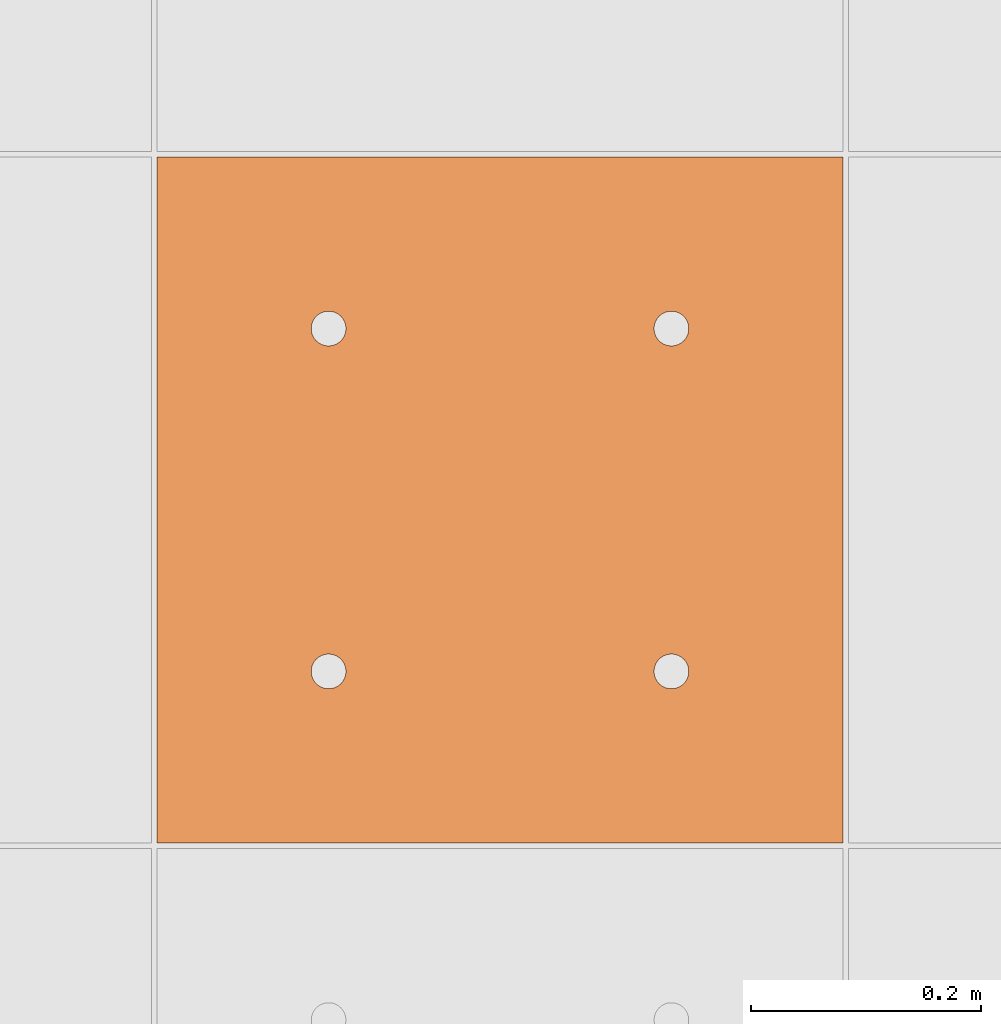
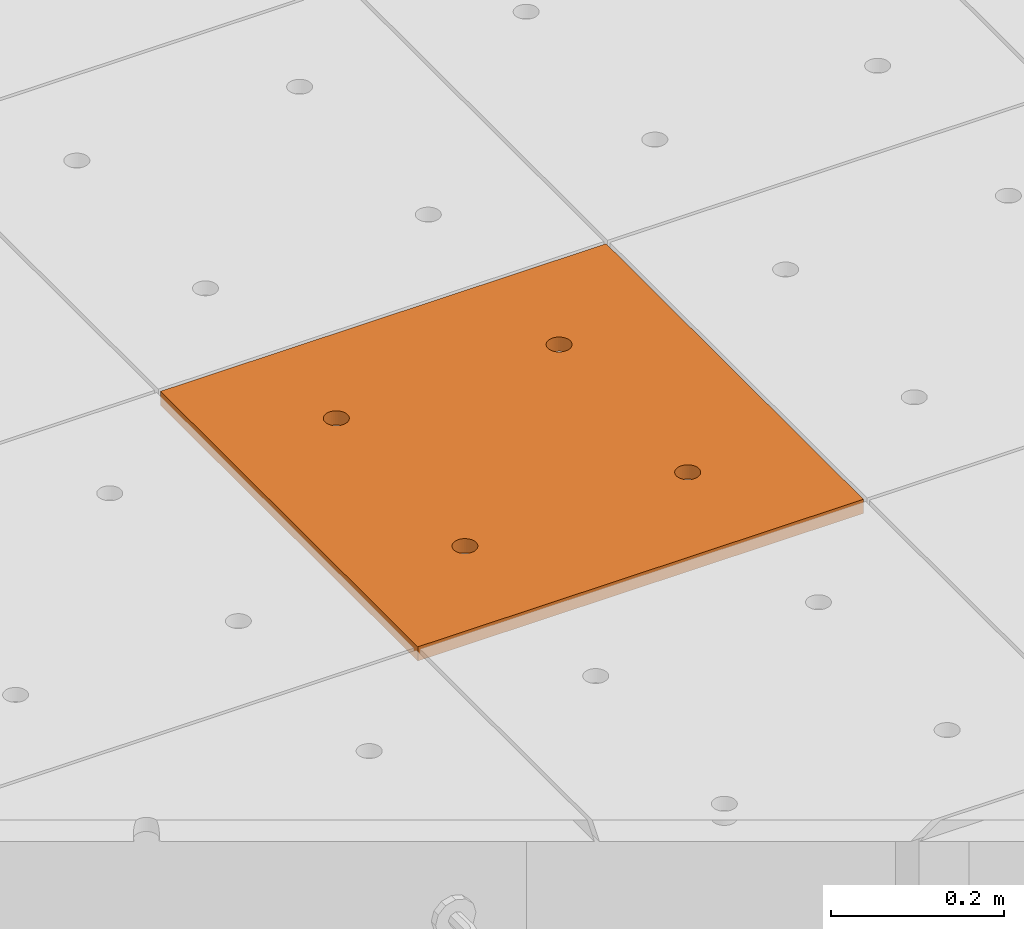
# One storey, part 261 of 338: 1 proxy, 1 element without a shape of its own.
"""IFC2X3 building model written with IfcOpenShell, lengths in millimetres."""

from ifc_helpers import new_model, entity, si_unit, converted_unit, derived_unit, money_unit, direction, frame, origin_with_axes, place, context, subcontext, project, spatial, faceted_brep, source, transform, mapped, material, type_object, type_shapes, element, aggregate, save


model = new_model("IFC2X3")

# Units and contexts
model_context = context("Model", 3, precision=0.01, world=origin_with_axes(), true_north=direction((0.0, 1.0)))
plan_context = context("Plan", 3, precision=0.01, world=origin_with_axes(), true_north=direction((0.0, 1.0)))
body_context = subcontext(model_context, "Body", "Model", "MODEL_VIEW")
ifc_project = project(units=[si_unit("LENGTHUNIT", "METRE", prefix="MILLI"), si_unit("AREAUNIT", "SQUARE_METRE"), si_unit("VOLUMEUNIT", "CUBIC_METRE"), converted_unit("PLANEANGLEUNIT", "DEGREE", entity("IfcPlaneAngleMeasure", 0.0174532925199), si_unit("PLANEANGLEUNIT", "RADIAN"), dimensions=[0, 0, 0, 0, 0, 0, 0]), money_unit("EUR"), converted_unit("TIMEUNIT", "Year", entity("IfcTimeMeasure", 31556926.0), si_unit("TIMEUNIT", "SECOND"), dimensions=[0, 0, 1, 0, 0, 0, 0]), si_unit("MASSUNIT", "GRAM", prefix="KILO"), si_unit("THERMODYNAMICTEMPERATUREUNIT", "DEGREE_CELSIUS"), si_unit("LUMINOUSINTENSITYUNIT", "LUMEN"), si_unit("ENERGYUNIT", "JOULE", prefix="MEGA"), derived_unit("THERMALCONDUCTANCEUNIT", [(si_unit("POWERUNIT", "WATT"), 1), (si_unit("LENGTHUNIT", "METRE"), -1), (si_unit("THERMODYNAMICTEMPERATUREUNIT", "KELVIN"), -1)]), derived_unit("SPECIFICHEATCAPACITYUNIT", [(si_unit("ENERGYUNIT", "JOULE"), 1), (si_unit("MASSUNIT", "GRAM", prefix="KILO"), -1), (si_unit("THERMODYNAMICTEMPERATUREUNIT", "KELVIN"), -1)]), derived_unit("MASSDENSITYUNIT", [(si_unit("MASSUNIT", "GRAM", prefix="KILO"), 1), (si_unit("VOLUMEUNIT", "CUBIC_METRE"), -1)])], contexts=[model_context, plan_context])

# Site, building, storey
site_placement = place(None, origin_with_axes())
site = spatial("IfcSite", under=ifc_project, at=site_placement, Name="Fortuinstraat Woensdrecht", CompositionType="ELEMENT")
building_placement = place(site_placement, origin_with_axes())
building = spatial("IfcBuilding", under=site, at=building_placement, Name="IKC Fortuna", CompositionType="ELEMENT")
storey_placement = place(building_placement, origin_with_axes())
storey = spatial("IfcBuildingStorey", under=building, at=storey_placement, Name="00 begane grond", CompositionType="ELEMENT", Elevation=0.0)

# Covering, proxy
covering_type = type_object("IfcCoveringType", Name="Curtain Wall Type", PredefinedType="CEILING")
covering_placement = place(storey_placement, frame((31656.9226967, 15748.5304598, 3210.0), z_axis=(0.0, 0.0, 1.0), x_axis=(1.0, 0.0, 0.0)))
covering = element("IfcCovering", 1, at=covering_placement, inside=storey, type_object=covering_type, Name="45_Plafondafwerking_P01", PredefinedType="CEILING")
ifc_material = material(Name="Gipsplaat")
building_element_proxy_type = type_object("IfcBuildingElementProxyType", Name="Main Panel 600 x 600 x 20", PredefinedType="NOTDEFINED")
shared_shape = source(origin_with_axes(), body_context, "Body", "Brep", [
    faceted_brep([(2.49999999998, 2.49999999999, -10.0), (300.0, 2.49999999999, -10.0), (300.0, 2.49999999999, 10.0), (2.49999999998, 2.49999999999, 10.0), (2.49999999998, 300.0, -10.0), (2.49999999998, 597.5, -10.0), (300.0, 597.5, -10.0), (597.5, 597.5, -10.0), (597.5, 300.0, -10.0), (597.5, 2.49999999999, -10.0), (166.25, 450.06232995, -10.0), (165.79423259, 452.64711538, -10.0), (164.896546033, 455.11348892, -10.0), (163.58421608, 457.38651108, -10.0), (161.897117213, 459.39711721, -10.0), (159.886511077, 461.08421608, -10.0), (157.613488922, 462.39654603, -10.0), (155.147115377, 463.29423259, -10.0), (152.562329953, 463.75, -10.0), (149.937670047, 463.75, -10.0), (147.352884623, 463.29423259, -10.0), (144.886511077, 462.39654603, -10.0), (142.613488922, 461.08421608, -10.0), (140.602882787, 459.39711721, -10.0), (138.91578392, 457.38651108, -10.0), (137.603453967, 455.11348892, -10.0), (136.705767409, 452.64711538, -10.0), (136.25, 450.06232995, -10.0), (136.25, 448.75, -10.0), (136.25, 447.43767005, -10.0), (136.705767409, 444.85288462, -10.0), (137.603453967, 442.38651108, -10.0), (138.91578392, 440.11348892, -10.0), (140.602882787, 438.10288279, -10.0), (142.613488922, 436.41578392, -10.0), (144.886511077, 435.10345397, -10.0), (147.352884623, 434.20576741, -10.0), (149.937670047, 433.75, -10.0), (152.562329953, 433.75, -10.0), (155.147115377, 434.20576741, -10.0), (157.613488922, 435.10345397, -10.0), (159.886511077, 436.41578392, -10.0), (161.897117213, 438.10288279, -10.0), (163.58421608, 440.11348892, -10.0), (164.896546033, 442.38651108, -10.0), (165.79423259, 444.85288462, -10.0), (166.25, 447.43767005, -10.0), (463.75, 450.06232995, -10.0), (463.29423259, 452.64711538, -10.0), (462.396546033, 455.11348892, -10.0), (461.08421608, 457.38651108, -10.0), (459.397117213, 459.39711721, -10.0), (457.386511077, 461.08421608, -10.0), (455.113488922, 462.39654603, -10.0), (452.647115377, 463.29423259, -10.0), (450.062329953, 463.75, -10.0), (447.437670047, 463.75, -10.0), (444.852884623, 463.29423259, -10.0), (442.386511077, 462.39654603, -10.0), (440.113488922, 461.08421608, -10.0), (438.102882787, 459.39711721, -10.0), (436.41578392, 457.38651108, -10.0), (435.103453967, 455.11348892, -10.0), (434.205767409, 452.64711538, -10.0), (433.75, 450.06232995, -10.0), (433.75, 448.75, -10.0), (433.75, 447.43767005, -10.0), (434.205767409, 444.85288462, -10.0), (435.103453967, 442.38651108, -10.0), (436.41578392, 440.11348892, -10.0), (438.102882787, 438.10288279, -10.0), (440.113488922, 436.41578392, -10.0), (442.386511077, 435.10345397, -10.0), (444.852884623, 434.20576741, -10.0), (447.437670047, 433.75, -10.0), (450.062329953, 433.75, -10.0), (452.647115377, 434.20576741, -10.0), (455.113488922, 435.10345397, -10.0), (457.386511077, 436.41578392, -10.0), (459.397117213, 438.10288279, -10.0), (461.08421608, 440.11348892, -10.0), (462.396546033, 442.38651108, -10.0), (463.29423259, 444.85288462, -10.0), (463.75, 447.43767005, -10.0), (463.75, 152.56232995, -10.0), (463.29423259, 155.14711538, -10.0), (462.396546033, 157.61348892, -10.0), (461.08421608, 159.88651108, -10.0), (459.397117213, 161.89711721, -10.0), (457.386511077, 163.58421608, -10.0), (455.113488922, 164.89654603, -10.0), (452.647115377, 165.79423259, -10.0), (450.062329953, 166.25, -10.0), (447.437670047, 166.25, -10.0), (444.852884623, 165.79423259, -10.0), (442.386511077, 164.89654603, -10.0), (440.113488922, 163.58421608, -10.0), (438.102882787, 161.89711721, -10.0), (436.41578392, 159.88651108, -10.0), (435.103453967, 157.61348892, -10.0), (434.205767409, 155.14711538, -10.0), (433.75, 152.56232995, -10.0), (433.75, 151.25, -10.0), (433.75, 149.93767005, -10.0), (434.205767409, 147.35288462, -10.0), (435.103453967, 144.88651108, -10.0), (436.41578392, 142.61348892, -10.0), (438.102882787, 140.60288279, -10.0), (440.113488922, 138.91578392, -10.0), (442.386511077, 137.60345397, -10.0), (444.852884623, 136.70576741, -10.0), (447.437670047, 136.25, -10.0), (450.062329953, 136.25, -10.0), (452.647115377, 136.70576741, -10.0), (455.113488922, 137.60345397, -10.0), (457.386511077, 138.91578392, -10.0), (459.397117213, 140.60288279, -10.0), (461.08421608, 142.61348892, -10.0), (462.396546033, 144.88651108, -10.0), (463.29423259, 147.35288462, -10.0), (463.75, 149.93767005, -10.0), (166.25, 152.56232995, -10.0), (165.79423259, 155.14711538, -10.0), (164.896546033, 157.61348892, -10.0), (163.58421608, 159.88651108, -10.0), (161.897117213, 161.89711721, -10.0), (159.886511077, 163.58421608, -10.0), (157.613488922, 164.89654603, -10.0), (155.147115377, 165.79423259, -10.0), (152.562329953, 166.25, -10.0), (149.937670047, 166.25, -10.0), (147.352884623, 165.79423259, -10.0), (144.886511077, 164.89654603, -10.0), (142.613488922, 163.58421608, -10.0), (140.602882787, 161.89711721, -10.0), (138.91578392, 159.88651108, -10.0), (137.603453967, 157.61348892, -10.0), (136.705767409, 155.14711538, -10.0), (136.25, 152.56232995, -10.0), (136.25, 151.25, -10.0), (136.25, 149.93767005, -10.0), (136.705767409, 147.35288462, -10.0), (137.603453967, 144.88651108, -10.0), (138.91578392, 142.61348892, -10.0), (140.602882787, 140.60288279, -10.0), (142.613488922, 138.91578392, -10.0), (144.886511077, 137.60345397, -10.0), (147.352884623, 136.70576741, -10.0), (149.937670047, 136.25, -10.0), (152.562329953, 136.25, -10.0), (155.147115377, 136.70576741, -10.0), (157.613488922, 137.60345397, -10.0), (159.886511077, 138.91578392, -10.0), (161.897117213, 140.60288279, -10.0), (163.58421608, 142.61348892, -10.0), (164.896546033, 144.88651108, -10.0), (165.79423259, 147.35288462, -10.0), (166.25, 149.93767005, -10.0), (597.5, 2.49999999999, 10.0), (597.5, 300.0, 10.0), (597.5, 597.5, 10.0), (300.0, 597.5, 10.0), (2.49999999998, 597.5, 10.0), (2.49999999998, 300.0, 10.0), (166.25, 450.06232995, 10.0), (166.25, 447.43767005, 10.0), (165.79423259, 444.85288462, 10.0), (164.896546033, 442.38651108, 10.0), (163.58421608, 440.11348892, 10.0), (161.897117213, 438.10288279, 10.0), (159.886511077, 436.41578392, 10.0), (157.613488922, 435.10345397, 10.0), (155.147115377, 434.20576741, 10.0), (152.562329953, 433.75, 10.0), (149.937670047, 433.75, 10.0), (147.352884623, 434.20576741, 10.0), (144.886511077, 435.10345397, 10.0), (142.613488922, 436.41578392, 10.0), (140.602882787, 438.10288279, 10.0), (138.91578392, 440.11348892, 10.0), (137.603453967, 442.38651108, 10.0), (136.705767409, 444.85288462, 10.0), (136.25, 447.43767005, 10.0), (136.25, 448.75, 10.0), (136.25, 450.06232995, 10.0), (136.705767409, 452.64711538, 10.0), (137.603453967, 455.11348892, 10.0), (138.91578392, 457.38651108, 10.0), (140.602882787, 459.39711721, 10.0), (142.613488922, 461.08421608, 10.0), (144.886511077, 462.39654603, 10.0), (147.352884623, 463.29423259, 10.0), (149.937670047, 463.75, 10.0), (152.562329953, 463.75, 10.0), (155.147115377, 463.29423259, 10.0), (157.613488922, 462.39654603, 10.0), (159.886511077, 461.08421608, 10.0), (161.897117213, 459.39711721, 10.0), (163.58421608, 457.38651108, 10.0), (164.896546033, 455.11348892, 10.0), (165.79423259, 452.64711538, 10.0), (463.75, 450.06232995, 10.0), (463.75, 447.43767005, 10.0), (463.29423259, 444.85288462, 10.0), (462.396546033, 442.38651108, 10.0), (461.08421608, 440.11348892, 10.0), (459.397117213, 438.10288279, 10.0), (457.386511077, 436.41578392, 10.0), (455.113488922, 435.10345397, 10.0), (452.647115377, 434.20576741, 10.0), (450.062329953, 433.75, 10.0), (447.437670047, 433.75, 10.0), (444.852884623, 434.20576741, 10.0), (442.386511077, 435.10345397, 10.0), (440.113488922, 436.41578392, 10.0), (438.102882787, 438.10288279, 10.0), (436.41578392, 440.11348892, 10.0), (435.103453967, 442.38651108, 10.0), (434.205767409, 444.85288462, 10.0), (433.75, 447.43767005, 10.0), (433.75, 448.75, 10.0), (433.75, 450.06232995, 10.0), (434.205767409, 452.64711538, 10.0), (435.103453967, 455.11348892, 10.0), (436.41578392, 457.38651108, 10.0), (438.102882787, 459.39711721, 10.0), (440.113488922, 461.08421608, 10.0), (442.386511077, 462.39654603, 10.0), (444.852884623, 463.29423259, 10.0), (447.437670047, 463.75, 10.0), (450.062329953, 463.75, 10.0), (452.647115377, 463.29423259, 10.0), (455.113488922, 462.39654603, 10.0), (457.386511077, 461.08421608, 10.0), (459.397117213, 459.39711721, 10.0), (461.08421608, 457.38651108, 10.0), (462.396546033, 455.11348892, 10.0), (463.29423259, 452.64711538, 10.0), (463.75, 152.56232995, 10.0), (463.75, 149.93767005, 10.0), (463.29423259, 147.35288462, 10.0), (462.396546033, 144.88651108, 10.0), (461.08421608, 142.61348892, 10.0), (459.397117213, 140.60288279, 10.0), (457.386511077, 138.91578392, 10.0), (455.113488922, 137.60345397, 10.0), (452.647115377, 136.70576741, 10.0), (450.062329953, 136.25, 10.0), (447.437670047, 136.25, 10.0), (444.852884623, 136.70576741, 10.0), (442.386511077, 137.60345397, 10.0), (440.113488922, 138.91578392, 10.0), (438.102882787, 140.60288279, 10.0), (436.41578392, 142.61348892, 10.0), (435.103453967, 144.88651108, 10.0), (434.205767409, 147.35288462, 10.0), (433.75, 149.93767005, 10.0), (433.75, 151.25, 10.0), (433.75, 152.56232995, 10.0), (434.205767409, 155.14711538, 10.0), (435.103453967, 157.61348892, 10.0), (436.41578392, 159.88651108, 10.0), (438.102882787, 161.89711721, 10.0), (440.113488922, 163.58421608, 10.0), (442.386511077, 164.89654603, 10.0), (444.852884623, 165.79423259, 10.0), (447.437670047, 166.25, 10.0), (450.062329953, 166.25, 10.0), (452.647115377, 165.79423259, 10.0), (455.113488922, 164.89654603, 10.0), (457.386511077, 163.58421608, 10.0), (459.397117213, 161.89711721, 10.0), (461.08421608, 159.88651108, 10.0), (462.396546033, 157.61348892, 10.0), (463.29423259, 155.14711538, 10.0), (166.25, 152.56232995, 10.0), (166.25, 149.93767005, 10.0), (165.79423259, 147.35288462, 10.0), (164.896546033, 144.88651108, 10.0), (163.58421608, 142.61348892, 10.0), (161.897117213, 140.60288279, 10.0), (159.886511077, 138.91578392, 10.0), (157.613488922, 137.60345397, 10.0), (155.147115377, 136.70576741, 10.0), (152.562329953, 136.25, 10.0), (149.937670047, 136.25, 10.0), (147.352884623, 136.70576741, 10.0), (144.886511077, 137.60345397, 10.0), (142.613488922, 138.91578392, 10.0), (140.602882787, 140.60288279, 10.0), (138.91578392, 142.61348892, 10.0), (137.603453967, 144.88651108, 10.0), (136.705767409, 147.35288462, 10.0), (136.25, 149.93767005, 10.0), (136.25, 151.25, 10.0), (136.25, 152.56232995, 10.0), (136.705767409, 155.14711538, 10.0), (137.603453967, 157.61348892, 10.0), (138.91578392, 159.88651108, 10.0), (140.602882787, 161.89711721, 10.0), (142.613488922, 163.58421608, 10.0), (144.886511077, 164.89654603, 10.0), (147.352884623, 165.79423259, 10.0), (149.937670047, 166.25, 10.0), (152.562329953, 166.25, 10.0), (155.147115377, 165.79423259, 10.0), (157.613488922, 164.89654603, 10.0), (159.886511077, 163.58421608, 10.0), (161.897117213, 161.89711721, 10.0), (163.58421608, 159.88651108, 10.0), (164.896546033, 157.61348892, 10.0), (165.79423259, 155.14711538, 10.0)], [[[0, 1, 2, 3]], [[0, 4, 5, 6, 7, 8, 9, 1], [10, 11, 12, 13, 14, 15, 16, 17, 18, 19, 20, 21, 22, 23, 24, 25, 26, 27, 28, 29, 30, 31, 32, 33, 34, 35, 36, 37, 38, 39, 40, 41, 42, 43, 44, 45, 46], [47, 48, 49, 50, 51, 52, 53, 54, 55, 56, 57, 58, 59, 60, 61, 62, 63, 64, 65, 66, 67, 68, 69, 70, 71, 72, 73, 74, 75, 76, 77, 78, 79, 80, 81, 82, 83], [84, 85, 86, 87, 88, 89, 90, 91, 92, 93, 94, 95, 96, 97, 98, 99, 100, 101, 102, 103, 104, 105, 106, 107, 108, 109, 110, 111, 112, 113, 114, 115, 116, 117, 118, 119, 120], [121, 122, 123, 124, 125, 126, 127, 128, 129, 130, 131, 132, 133, 134, 135, 136, 137, 138, 139, 140, 141, 142, 143, 144, 145, 146, 147, 148, 149, 150, 151, 152, 153, 154, 155, 156, 157]], [[1, 9, 158, 2]], [[3, 2, 158, 159, 160, 161, 162, 163], [164, 165, 166, 167, 168, 169, 170, 171, 172, 173, 174, 175, 176, 177, 178, 179, 180, 181, 182, 183, 184, 185, 186, 187, 188, 189, 190, 191, 192, 193, 194, 195, 196, 197, 198, 199, 200], [201, 202, 203, 204, 205, 206, 207, 208, 209, 210, 211, 212, 213, 214, 215, 216, 217, 218, 219, 220, 221, 222, 223, 224, 225, 226, 227, 228, 229, 230, 231, 232, 233, 234, 235, 236, 237], [238, 239, 240, 241, 242, 243, 244, 245, 246, 247, 248, 249, 250, 251, 252, 253, 254, 255, 256, 257, 258, 259, 260, 261, 262, 263, 264, 265, 266, 267, 268, 269, 270, 271, 272, 273, 274], [275, 276, 277, 278, 279, 280, 281, 282, 283, 284, 285, 286, 287, 288, 289, 290, 291, 292, 293, 294, 295, 296, 297, 298, 299, 300, 301, 302, 303, 304, 305, 306, 307, 308, 309, 310, 311]], [[4, 0, 3, 163]], [[5, 4, 163, 162]], [[6, 5, 162, 161]], [[7, 6, 161, 160]], [[8, 7, 160, 159]], [[9, 8, 159, 158]], [[11, 10, 164, 200]], [[12, 11, 200, 199]], [[13, 12, 199, 198]], [[14, 13, 198, 197]], [[15, 14, 197, 196]], [[16, 15, 196, 195]], [[17, 16, 195, 194]], [[18, 17, 194, 193]], [[19, 18, 193, 192]], [[20, 19, 192, 191]], [[21, 20, 191, 190]], [[22, 21, 190, 189]], [[23, 22, 189, 188]], [[24, 23, 188, 187]], [[25, 24, 187, 186]], [[26, 25, 186, 185]], [[27, 26, 185, 184]], [[28, 27, 184, 183]], [[29, 28, 183, 182]], [[30, 29, 182, 181]], [[31, 30, 181, 180]], [[32, 31, 180, 179]], [[33, 32, 179, 178]], [[34, 33, 178, 177]], [[35, 34, 177, 176]], [[36, 35, 176, 175]], [[37, 36, 175, 174]], [[38, 37, 174, 173]], [[39, 38, 173, 172]], [[40, 39, 172, 171]], [[41, 40, 171, 170]], [[42, 41, 170, 169]], [[43, 42, 169, 168]], [[44, 43, 168, 167]], [[45, 44, 167, 166]], [[46, 45, 166, 165]], [[10, 46, 165, 164]], [[48, 47, 201, 237]], [[49, 48, 237, 236]], [[50, 49, 236, 235]], [[51, 50, 235, 234]], [[52, 51, 234, 233]], [[53, 52, 233, 232]], [[54, 53, 232, 231]], [[55, 54, 231, 230]], [[56, 55, 230, 229]], [[57, 56, 229, 228]], [[58, 57, 228, 227]], [[59, 58, 227, 226]], [[60, 59, 226, 225]], [[61, 60, 225, 224]], [[62, 61, 224, 223]], [[63, 62, 223, 222]], [[64, 63, 222, 221]], [[65, 64, 221, 220]], [[66, 65, 220, 219]], [[67, 66, 219, 218]], [[68, 67, 218, 217]], [[69, 68, 217, 216]], [[70, 69, 216, 215]], [[71, 70, 215, 214]], [[72, 71, 214, 213]], [[73, 72, 213, 212]], [[74, 73, 212, 211]], [[75, 74, 211, 210]], [[76, 75, 210, 209]], [[77, 76, 209, 208]], [[78, 77, 208, 207]], [[79, 78, 207, 206]], [[80, 79, 206, 205]], [[81, 80, 205, 204]], [[82, 81, 204, 203]], [[83, 82, 203, 202]], [[47, 83, 202, 201]], [[85, 84, 238, 274]], [[86, 85, 274, 273]], [[87, 86, 273, 272]], [[88, 87, 272, 271]], [[89, 88, 271, 270]], [[90, 89, 270, 269]], [[91, 90, 269, 268]], [[92, 91, 268, 267]], [[93, 92, 267, 266]], [[94, 93, 266, 265]], [[95, 94, 265, 264]], [[96, 95, 264, 263]], [[97, 96, 263, 262]], [[98, 97, 262, 261]], [[99, 98, 261, 260]], [[100, 99, 260, 259]], [[101, 100, 259, 258]], [[102, 101, 258, 257]], [[103, 102, 257, 256]], [[104, 103, 256, 255]], [[105, 104, 255, 254]], [[106, 105, 254, 253]], [[107, 106, 253, 252]], [[108, 107, 252, 251]], [[109, 108, 251, 250]], [[110, 109, 250, 249]], [[111, 110, 249, 248]], [[112, 111, 248, 247]], [[113, 112, 247, 246]], [[114, 113, 246, 245]], [[115, 114, 245, 244]], [[116, 115, 244, 243]], [[117, 116, 243, 242]], [[118, 117, 242, 241]], [[119, 118, 241, 240]], [[120, 119, 240, 239]], [[84, 120, 239, 238]], [[122, 121, 275, 311]], [[123, 122, 311, 310]], [[124, 123, 310, 309]], [[125, 124, 309, 308]], [[126, 125, 308, 307]], [[127, 126, 307, 306]], [[128, 127, 306, 305]], [[129, 128, 305, 304]], [[130, 129, 304, 303]], [[131, 130, 303, 302]], [[132, 131, 302, 301]], [[133, 132, 301, 300]], [[134, 133, 300, 299]], [[135, 134, 299, 298]], [[136, 135, 298, 297]], [[137, 136, 297, 296]], [[138, 137, 296, 295]], [[139, 138, 295, 294]], [[140, 139, 294, 293]], [[141, 140, 293, 292]], [[142, 141, 292, 291]], [[143, 142, 291, 290]], [[144, 143, 290, 289]], [[145, 144, 289, 288]], [[146, 145, 288, 287]], [[147, 146, 287, 286]], [[148, 147, 286, 285]], [[149, 148, 285, 284]], [[150, 149, 284, 283]], [[151, 150, 283, 282]], [[152, 151, 282, 281]], [[153, 152, 281, 280]], [[154, 153, 280, 279]], [[155, 154, 279, 278]], [[156, 155, 278, 277]], [[157, 156, 277, 276]], [[121, 157, 276, 275]]]),
])
type_shapes(building_element_proxy_type, [shared_shape])
proxy_placement = place(covering_placement, frame((-600.0, 0.0, 1.15907283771e-10), z_axis=(0.0, 0.0, 1.0), x_axis=(1.0, 0.0, 0.0)))
proxy = element("IfcBuildingElementProxy", 2, at=proxy_placement, type_object=building_element_proxy_type, material=ifc_material, Name="__600x623 Rockfon Krios", context=body_context, shape_type="MappedRepresentation", body=[
    mapped(shared_shape, transform((300.0, 300.0, 0.0), x_axis=(-1.0, 0.0, 0.0), y_axis=(0.0, -1.0, 0.0), z_axis=(0.0, 0.0, 1.0))),
])
aggregate(covering, [proxy])

save(model, "model.ifc")
